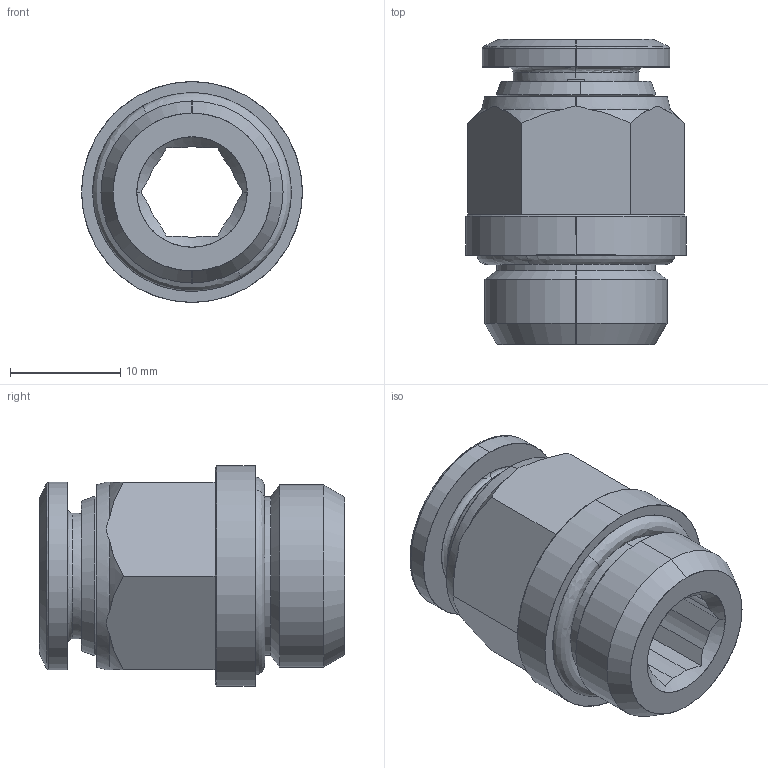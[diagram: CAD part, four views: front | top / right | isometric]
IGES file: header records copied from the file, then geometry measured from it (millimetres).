
Start section: SolidWorks IGES file using analytic representation for surfaces
Global section: file name: K:\Disegni Esecutivi\SERIE 40000\ASSIEMI\40020\IGES e STEP\40020V0009A.IGS; native system: SolidWorks 2020; preprocessor: SolidWorks 2020; author: CAD13; date: 241021.121502; units: millimetre
Bounding box: 20 x 27.65 x 20 mm (x, y, z)
Surface area: 3055.1 mm2 (no closed solid volume)
Topology: 0 solids, 0 shells, 84 faces, 902 edges, 902 vertices
Faces by surface type: revolution 47, bspline 37
